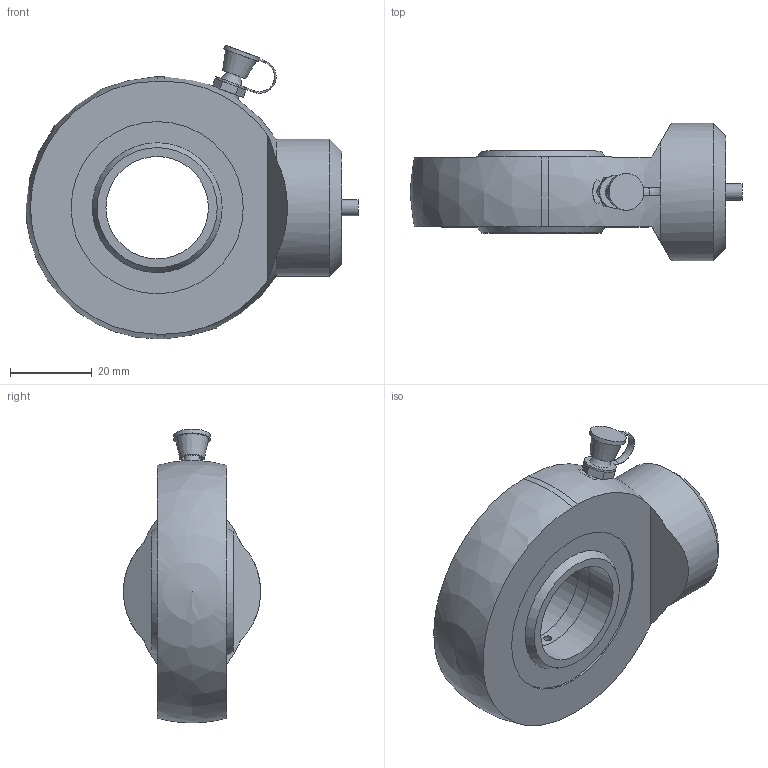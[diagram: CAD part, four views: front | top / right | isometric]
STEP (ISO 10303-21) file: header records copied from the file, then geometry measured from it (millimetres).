
FILE_DESCRIPTION( ( 'Unknown' ), '1' );
FILE_NAME( 'E:/LIBRERIA_3d/SNODI INDUSTRIALI/CSTS025C00.stp', 'Unknown', ( 'Unknown' ), ( 'Unknown' ), 'PSStep 17.0.49', 'Unknown', ' ' );
FILE_SCHEMA( ( 'AUTOMOTIVE_DESIGN { 1 0 10303 214 1 1 1 1 }' ) );
Length unit declared in the file: millimetre
Products named in the file (6): CSTSF025C0; tsc25c_CORPO; AN00006001; Assem1; cge0250000; APGR013000
Assembly tree (5 placements, depth 3):
  Assem1
    cge0250000
    APGR013000
    CSTSF025C0
      tsc25c_CORPO
      AN00006001
Bounding box: 81 x 33.47 x 71.66 mm (x, y, z)
Volume: 58805.3 mm3; surface area: 18013.3 mm2
Topology: 4 solids, 4 shells, 63 faces, 140 edges, 94 vertices
Faces by surface type: plane 30, cylinder 19, sphere 5, bspline 5, cone 2, torus 2
Full cylindrical faces by diameter (mm): 2 x2, 4 x1, 5 x3, 6 x1, 8 x1, 9 x1, 25 x2, 33.5 x1, 40 x1, 42 x3
Entity records: 2907 total; most frequent: CARTESIAN_POINT 1200, DIRECTION 276, ORIENTED_EDGE 194, AXIS2_PLACEMENT_3D 125, EDGE_LOOP 112, EDGE_CURVE 97, FACE_OUTER_BOUND 85, VERTEX_POINT 81
